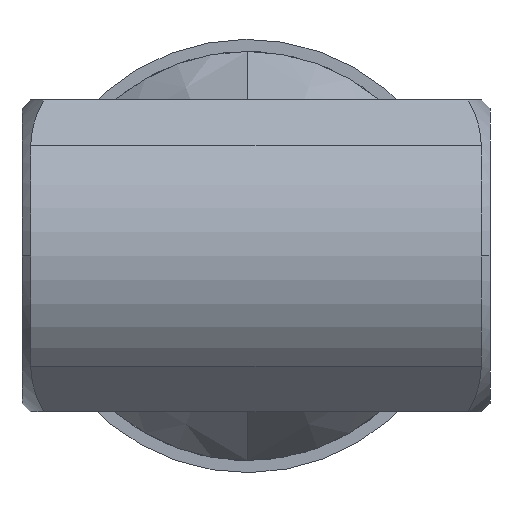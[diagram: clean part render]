
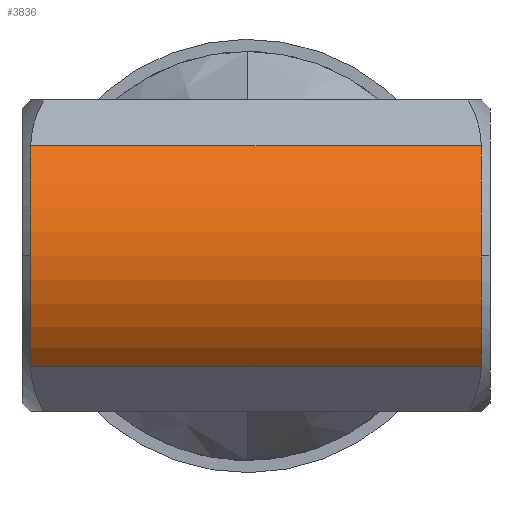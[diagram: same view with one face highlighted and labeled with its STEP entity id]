
A CAD part, left-side view. The second image highlights one B-rep face of the part: STEP entity #3836.
In plain terms, the highlighted cylindrical face has radius 4.5 mm (diameter 9 mm), a partial arc.
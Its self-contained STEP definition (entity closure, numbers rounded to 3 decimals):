
#51 = FACE_OUTER_BOUND ( 'NONE', #752, .T. ) ;
#135 = EDGE_CURVE ( 'Defeature completata4_16+Defeature completata4_10+Defeature completata4_11+Defeature completata4_14', #3291, #4367, #4360, .T. ) ;
#256 = CIRCLE ( 'NONE', #2150, 4.5 ) ;
#259 = VECTOR ( 'NONE', #3106, 1000. ) ;
#397 = CIRCLE ( 'NONE', #3466, 4.5 ) ;
#470 = LINE ( 'NONE', #1376, #259 ) ;
#636 = ORIENTED_EDGE ( 'NONE', *, *, #4461, .F. ) ;
#683 = EDGE_CURVE ( 'Defeature completata4_15+Defeature completata4_10+Defeature completata4_14+Defeature completata4_11', #4126, #4421, #256, .T. ) ;
#701 = CARTESIAN_POINT ( 'NONE',  ( 0., 13.25, 0. ) ) ;
#752 = EDGE_LOOP ( 'NONE', ( #4478, #636, #4392, #2802, #3166, #4069 ) ) ;
#822 = DIRECTION ( 'NONE',  ( 0., 1., 0. ) ) ;
#963 = CARTESIAN_POINT ( 'NONE',  ( -3.182, 13.25, 3.182 ) ) ;
#1191 = DIRECTION ( 'NONE',  ( 0., -1., 0. ) ) ;
#1218 = CARTESIAN_POINT ( 'NONE',  ( 0., 13.5, 0. ) ) ;
#1376 = CARTESIAN_POINT ( 'NONE',  ( -3.182, 13.5, 3.182 ) ) ;
#1452 = DIRECTION ( 'NONE',  ( -1., 0., 0. ) ) ;
#1649 = DIRECTION ( 'NONE',  ( 0., -1., 0. ) ) ;
#1696 = CARTESIAN_POINT ( 'NONE',  ( 0., 0.25, 0. ) ) ;
#1720 = CARTESIAN_POINT ( 'NONE',  ( -3.182, 13.5, -3.182 ) ) ;
#1819 = CYLINDRICAL_SURFACE ( 'NONE', #2446, 4.5 ) ;
#1846 = VECTOR ( 'NONE', #2397, 1000. ) ;
#1848 = DIRECTION ( 'NONE',  ( 0., 1., 0. ) ) ;
#2150 = AXIS2_PLACEMENT_3D ( 'NONE', #701, #822, #2233 ) ;
#2233 = DIRECTION ( 'NONE',  ( 1., 0., 0. ) ) ;
#2319 = CARTESIAN_POINT ( 'NONE',  ( -3.182, 0.25, 3.182 ) ) ;
#2397 = DIRECTION ( 'NONE',  ( 0., -1., 0. ) ) ;
#2446 = AXIS2_PLACEMENT_3D ( 'NONE', #1218, #3308, #2588 ) ;
#2506 = EDGE_CURVE ( 'Defeature completata4_15+Defeature completata4_10+Defeature completata4_14+Defeature completata4_11', #3601, #4126, #4171, .T. ) ;
#2588 = DIRECTION ( 'NONE',  ( 0., 0., -1. ) ) ;
#2663 = CARTESIAN_POINT ( 'NONE',  ( -4.5, 0.25, 0. ) ) ;
#2707 = CARTESIAN_POINT ( 'NONE',  ( -3.182, 0.25, -3.182 ) ) ;
#2802 = ORIENTED_EDGE ( 'NONE', *, *, #2506, .F. ) ;
#2859 = CARTESIAN_POINT ( 'NONE',  ( -3.182, 13.25, -3.182 ) ) ;
#2935 = AXIS2_PLACEMENT_3D ( 'NONE', #1696, #1649, #1452 ) ;
#2986 = LINE ( 'NONE', #1720, #1846 ) ;
#3016 = EDGE_CURVE ( 'Defeature completata4_10+Defeature completata4_14+Defeature completata4_15+Defeature completata4_16', #3601, #4367, #2986, .T. ) ;
#3098 = CARTESIAN_POINT ( 'NONE',  ( -4.5, 13.25, 0. ) ) ;
#3106 = DIRECTION ( 'NONE',  ( 0., -1., 0. ) ) ;
#3166 = ORIENTED_EDGE ( 'NONE', *, *, #3016, .T. ) ;
#3282 = CARTESIAN_POINT ( 'NONE',  ( 0., 0.25, 0. ) ) ;
#3291 = VERTEX_POINT ( 'NONE', #2663 ) ;
#3308 = DIRECTION ( 'NONE',  ( 0., -1., 0. ) ) ;
#3466 = AXIS2_PLACEMENT_3D ( 'NONE', #3282, #1191, #3624 ) ;
#3523 = EDGE_CURVE ( 'Defeature completata4_16+Defeature completata4_10+Defeature completata4_11+Defeature completata4_14', #3942, #3291, #397, .T. ) ;
#3601 = VERTEX_POINT ( 'NONE', #2859 ) ;
#3624 = DIRECTION ( 'NONE',  ( -1., 0., 0. ) ) ;
#3836 = ADVANCED_FACE ( 'Defeature completata4_10', ( #51 ), #1819, .T. ) ;
#3902 = CARTESIAN_POINT ( 'NONE',  ( 0., 13.25, 0. ) ) ;
#3942 = VERTEX_POINT ( 'NONE', #2319 ) ;
#4069 = ORIENTED_EDGE ( 'NONE', *, *, #135, .F. ) ;
#4126 = VERTEX_POINT ( 'NONE', #3098 ) ;
#4171 = CIRCLE ( 'NONE', #4343, 4.5 ) ;
#4266 = DIRECTION ( 'NONE',  ( 1., 0., 0. ) ) ;
#4343 = AXIS2_PLACEMENT_3D ( 'NONE', #3902, #1848, #4266 ) ;
#4360 = CIRCLE ( 'NONE', #2935, 4.5 ) ;
#4367 = VERTEX_POINT ( 'NONE', #2707 ) ;
#4392 = ORIENTED_EDGE ( 'NONE', *, *, #683, .F. ) ;
#4421 = VERTEX_POINT ( 'NONE', #963 ) ;
#4461 = EDGE_CURVE ( 'Defeature completata4_11+Defeature completata4_10+Defeature completata4_15+Defeature completata4_16', #4421, #3942, #470, .T. ) ;
#4478 = ORIENTED_EDGE ( 'NONE', *, *, #3523, .F. ) ;
